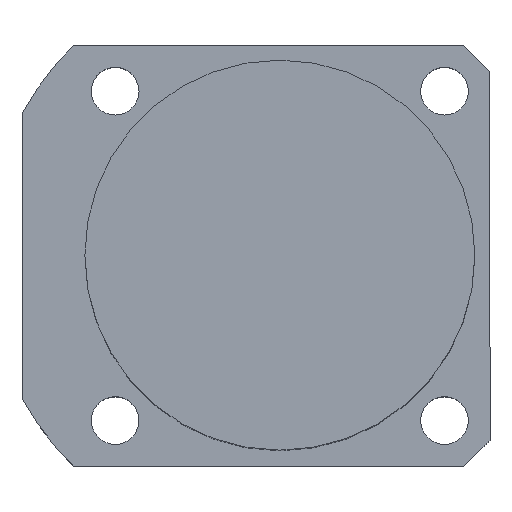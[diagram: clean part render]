
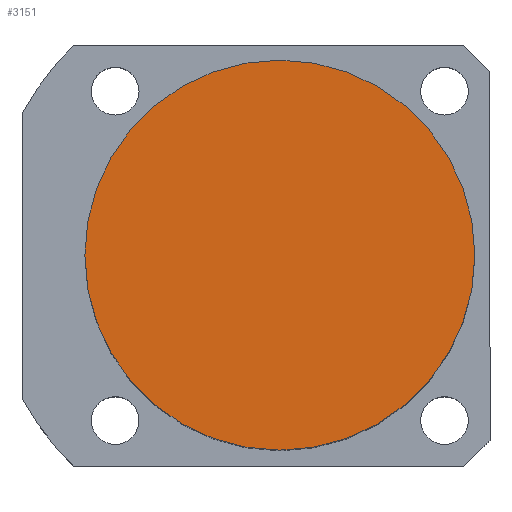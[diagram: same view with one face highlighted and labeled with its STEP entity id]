
A CAD part, top view. The second image highlights one B-rep face of the part: STEP entity #3151.
In plain terms, the highlighted planar face has unit normal (0, 0, 1).
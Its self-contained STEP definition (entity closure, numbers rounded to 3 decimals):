
#160 = CARTESIAN_POINT ( 'NONE',  ( 0., 0., 109.5 ) ) ;
#189 = DIRECTION ( 'NONE',  ( 0., 0., 1. ) ) ;
#496 = ORIENTED_EDGE ( 'NONE', *, *, #4974, .T. ) ;
#719 = EDGE_CURVE ( 'NONE', #6656, #1858, #6890, .T. ) ;
#1858 = VERTEX_POINT ( 'NONE', #3744 ) ;
#2706 = CARTESIAN_POINT ( 'NONE',  ( 0., 0., 109.5 ) ) ;
#3151 = ADVANCED_FACE ( 'NONE', ( #4117 ), #6798, .T. ) ;
#3155 = CARTESIAN_POINT ( 'NONE',  ( 0., 0., 109.5 ) ) ;
#3254 = AXIS2_PLACEMENT_3D ( 'NONE', #2706, #6547, #3257 ) ;
#3257 = DIRECTION ( 'NONE',  ( 1., 0., 0. ) ) ;
#3710 = DIRECTION ( 'NONE',  ( 1., 0., 0. ) ) ;
#3744 = CARTESIAN_POINT ( 'NONE',  ( 45., 0., 109.5 ) ) ;
#4063 = DIRECTION ( 'NONE',  ( 1., 0., 0. ) ) ;
#4117 = FACE_OUTER_BOUND ( 'NONE', #4402, .T. ) ;
#4402 = EDGE_LOOP ( 'NONE', ( #5538, #496 ) ) ;
#4503 = CARTESIAN_POINT ( 'NONE',  ( -45., 0., 109.5 ) ) ;
#4974 = EDGE_CURVE ( 'NONE', #1858, #6656, #6101, .T. ) ;
#5538 = ORIENTED_EDGE ( 'NONE', *, *, #719, .T. ) ;
#6101 = CIRCLE ( 'NONE', #3254, 45. ) ;
#6466 = AXIS2_PLACEMENT_3D ( 'NONE', #160, #189, #4063 ) ;
#6547 = DIRECTION ( 'NONE',  ( 0., 0., 1. ) ) ;
#6626 = AXIS2_PLACEMENT_3D ( 'NONE', #3155, #6989, #3710 ) ;
#6656 = VERTEX_POINT ( 'NONE', #4503 ) ;
#6798 = PLANE ( 'NONE',  #6466 ) ;
#6890 = CIRCLE ( 'NONE', #6626, 45. ) ;
#6989 = DIRECTION ( 'NONE',  ( 0., 0., 1. ) ) ;
